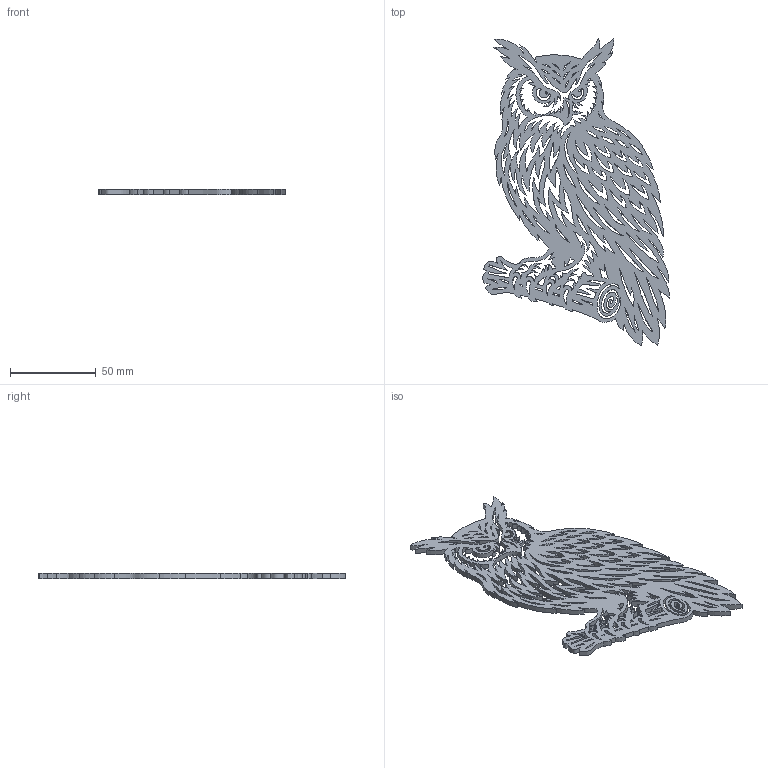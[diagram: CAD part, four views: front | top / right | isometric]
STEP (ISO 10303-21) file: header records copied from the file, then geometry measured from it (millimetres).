
FILE_DESCRIPTION(('STEP AP214'),'1');
FILE_NAME('owl-2.stp','2026-06-23T14:29:54',(' '),(' '),'Spatial InterOp 3D',' ',' ');
FILE_SCHEMA(('AUTOMOTIVE_DESIGN { 1 0 10303 214 1 1 1 1 }'));
Length unit declared in the file: millimetre
Products named in the file (1): 1782277467
Bounding box: 109.11 x 180 x 3 mm (x, y, z)
Volume: 27376 mm3; surface area: 33617.9 mm2
Topology: 1 solids, 1 shells, 532 faces, 1590 edges, 1060 vertices
Faces by surface type: extrusion 530, plane 2
Entity records: 29199 total; most frequent: CARTESIAN_POINT 12342, ORIENTED_EDGE 3180, EDGE_CURVE 1590, B_SPLINE_CURVE_WITH_KNOTS 1587, DIRECTION 1066, VECTOR 1060, VERTEX_POINT 1060, EDGE_LOOP 716
